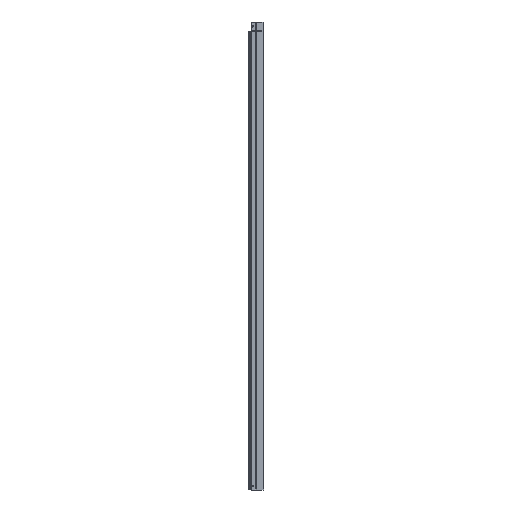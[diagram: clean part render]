
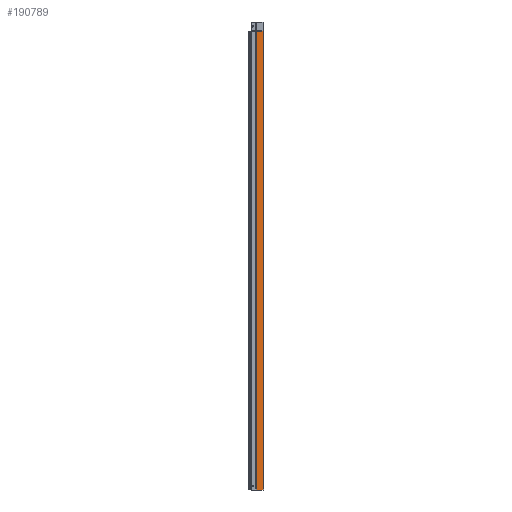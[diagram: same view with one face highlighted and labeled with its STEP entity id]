
A CAD part, left-side view. The second image highlights one B-rep face of the part: STEP entity #190789.
In plain terms, the highlighted planar face has unit normal (-1, 0, 0).
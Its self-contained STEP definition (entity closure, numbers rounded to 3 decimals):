
#157 = EDGE_CURVE ( 'NONE', #170713, #134520, #287145, .T. ) ;
#723 = EDGE_CURVE ( 'NONE', #324066, #103997, #288377, .T. ) ;
#51352 = EDGE_CURVE ( 'NONE', #170713, #324066, #259020, .T. ) ;
#77308 = CARTESIAN_POINT ( 'NONE',  ( -50., 31.806, 0. ) ) ;
#77690 = CARTESIAN_POINT ( 'NONE',  ( -50., 45.545, 0. ) ) ;
#80010 = ORIENTED_EDGE ( 'NONE', *, *, #231720, .F. ) ;
#91306 = EDGE_LOOP ( 'NONE', ( #80010, #283686, #283965, #251549 ) ) ;
#103997 = VERTEX_POINT ( 'NONE', #145561 ) ;
#105608 = CARTESIAN_POINT ( 'NONE',  ( -50., 45.545, -2941.5 ) ) ;
#118146 = PLANE ( 'NONE',  #182271 ) ;
#128608 = B_SPLINE_CURVE_WITH_KNOTS ( 'NONE', 3,
 ( #131758, #77308, #278747, #230841 ),
 .UNSPECIFIED., .F., .F.,
 ( 4, 4 ),
 ( 0., 1. ),
 .UNSPECIFIED. ) ;
#131758 = CARTESIAN_POINT ( 'NONE',  ( -50., 45.545, 0. ) ) ;
#134520 = VERTEX_POINT ( 'NONE', #77690 ) ;
#145527 = CARTESIAN_POINT ( 'NONE',  ( -50., 45.545, -2941.5 ) ) ;
#145561 = CARTESIAN_POINT ( 'NONE',  ( -50., 4.327, 0. ) ) ;
#150189 = CARTESIAN_POINT ( 'NONE',  ( -50., 4.327, -2941.5 ) ) ;
#170713 = VERTEX_POINT ( 'NONE', #145527 ) ;
#182271 = AXIS2_PLACEMENT_3D ( 'NONE', #288300, #294806, #263525 ) ;
#190789 = ADVANCED_FACE ( 'NONE', ( #212340 ), #118146, .T. ) ;
#206204 = CARTESIAN_POINT ( 'NONE',  ( -50., 45.545, -2941.5 ) ) ;
#212340 = FACE_OUTER_BOUND ( 'NONE', #91306, .T. ) ;
#216338 = VECTOR ( 'NONE', #235952, 1000. ) ;
#229335 = DIRECTION ( 'NONE',  ( 0., -1., 0. ) ) ;
#230841 = CARTESIAN_POINT ( 'NONE',  ( -50., 4.327, 0. ) ) ;
#231720 = EDGE_CURVE ( 'NONE', #134520, #103997, #128608, .T. ) ;
#235952 = DIRECTION ( 'NONE',  ( 0., 0., 1. ) ) ;
#249722 = VECTOR ( 'NONE', #229335, 1000. ) ;
#251549 = ORIENTED_EDGE ( 'NONE', *, *, #723, .T. ) ;
#259020 = LINE ( 'NONE', #206204, #249722 ) ;
#263525 = DIRECTION ( 'NONE',  ( 0., -1., 0. ) ) ;
#278747 = CARTESIAN_POINT ( 'NONE',  ( -50., 18.066, 0. ) ) ;
#283686 = ORIENTED_EDGE ( 'NONE', *, *, #157, .F. ) ;
#283965 = ORIENTED_EDGE ( 'NONE', *, *, #51352, .T. ) ;
#287145 = LINE ( 'NONE', #105608, #216338 ) ;
#288300 = CARTESIAN_POINT ( 'NONE',  ( -50., 45.545, -2941.5 ) ) ;
#288377 = LINE ( 'NONE', #318053, #303319 ) ;
#294806 = DIRECTION ( 'NONE',  ( -1., 0., 0. ) ) ;
#303319 = VECTOR ( 'NONE', #316428, 1000. ) ;
#316428 = DIRECTION ( 'NONE',  ( 0., 0., 1. ) ) ;
#318053 = CARTESIAN_POINT ( 'NONE',  ( -50., 4.327, -2941.5 ) ) ;
#324066 = VERTEX_POINT ( 'NONE', #150189 ) ;
